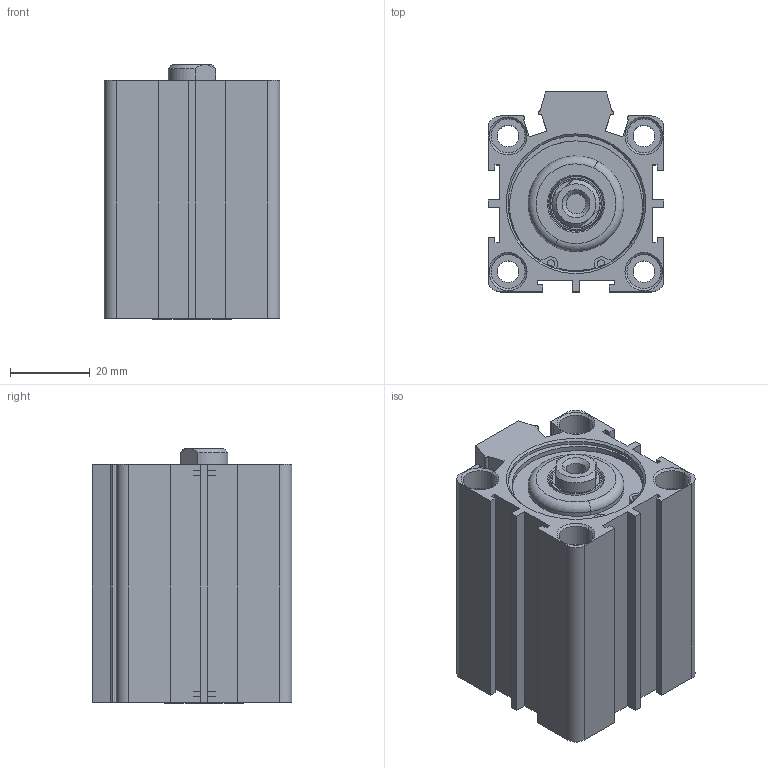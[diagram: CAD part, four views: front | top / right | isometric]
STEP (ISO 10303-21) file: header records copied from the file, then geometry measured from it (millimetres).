
FILE_DESCRIPTION (( 'STEP AP214' ), '1' );
FILE_NAME ('SDA_32_25_WEB.STEP', '2021-01-22T11:16:10', ( 'cagdas' ), ( '' ), 'SwSTEP 2.0', 'SolidWorks 2021', '' );
FILE_SCHEMA (( 'AUTOMOTIVE_DESIGN' ));
Length unit declared in the file: millimetre
Products named in the file (7): SDA32ARKKAPAK; SDA_32_25_WEB; SDA32_BORU_WEB; basic internal retaining ring_am_B27.7M - 3BM1-36; 20_MIL_WEB; SDA32ONKAPAKDINCPLASTIK; KASTAS-K52-12X16_5X3_6-4_8
Assembly tree (7 placements, depth 2):
  SDA_32_25_WEB
    SDA32_BORU_WEB
    SDA32ONKAPAKDINCPLASTIK
    KASTAS-K52-12X16_5X3_6-4_8
    SDA32ARKKAPAK
    20_MIL_WEB
    basic internal retaining ring_am_B27.7M - 3BM1-36  x2
Bounding box: 44 x 50 x 63.85 mm (x, y, z)
Volume: 65911.8 mm3; surface area: 38461.6 mm2
Topology: 7 solids, 7 shells, 467 faces, 1165 edges, 750 vertices
Faces by surface type: plane 178, cylinder 124, bspline 85, cone 76, torus 4
Entity records: 19570 total; most frequent: CARTESIAN_POINT 7109, ORIENTED_EDGE 2228, DIRECTION 1994, EDGE_CURVE 1114, VERTEX_POINT 716, AXIS2_PLACEMENT_3D 687, VECTOR 620, LINE 620
